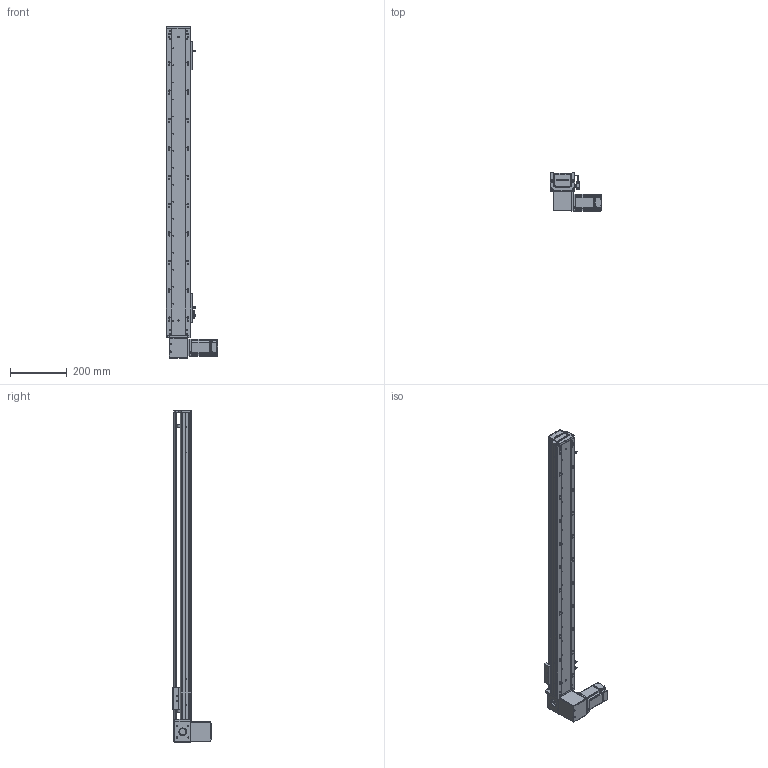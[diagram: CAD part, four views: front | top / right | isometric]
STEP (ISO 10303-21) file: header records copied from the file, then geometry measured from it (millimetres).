
FILE_DESCRIPTION (( 'STEP AP203' ), '1' );
FILE_NAME ('RY80-T-300-DR.SLDASM_900.step', '2021-03-01T01:49:59', ( '盈信电脑' ), ( '东莞市道滘镇水果街19号' ), 'SwSTEP 2.0', 'SolidWorks 2012', '' );
FILE_SCHEMA (( 'CONFIG_CONTROL_DESIGN' ));
Products named in the file (18): RY80-T-300-DR.SLDASM_900; RY80-T萇儂假蚾啣; 1; RY80-T-M4蹟翐3; RY80-T-上下折同步轮盖板; RY80-T肮祭謫狟殏俋欶; 滅袉蝶18-10; RY80-T翋肮祭謫裔啣; RY80-T-翋肮祭謫釱; RY80-T肮祭湍揤輸1; RY80-T肮祭湍揤輸2; RY80俋离覜茼え; 覜茼ん672; RY80-T綴裔啣; 672嫖萇羲壽假蚾釱; RY80-T-300-DR倰第奻裔啣_900; RY80-T肮祭謫臏賑輸; RY80-T-300-DR倰第菁釱_900
Assembly tree (21 placements, depth 2):
  RY80-T-300-DR.SLDASM_900
    RY80-T-300-DR倰第菁釱_900
    RY80-T肮祭謫臏賑輸
    RY80-T-300-DR倰第奻裔啣_900
    RY80-T綴裔啣
    672嫖萇羲壽假蚾釱  x2
    覜茼ん672  x3
    RY80俋离覜茼え
    RY80-T-翋肮祭謫釱
    RY80-T肮祭湍揤輸1
    RY80-T肮祭湍揤輸2
    滅袉蝶18-10  x2
    RY80-T翋肮祭謫裔啣
    RY80-T-上下折同步轮盖板
    RY80-T肮祭謫狟殏俋欶
    RY80-T萇儂假蚾啣
    1
    RY80-T-M4蹟翐3
Bounding box: 180 x 134.5 x 1170 mm (x, y, z)
Volume: 2029628.1 mm3; surface area: 847829.8 mm2
Topology: 21 solids, 21 shells, 2563 faces, 7129 edges, 4632 vertices
Faces by surface type: plane 1341, cylinder 1022, cone 144, bspline 56
Entity records: 83328 total; most frequent: CARTESIAN_POINT 21300, ORIENTED_EDGE 12902, DIRECTION 11904, EDGE_CURVE 6451, VERTEX_POINT 4236, AXIS2_PLACEMENT_3D 4028, LINE 3848, VECTOR 3848
